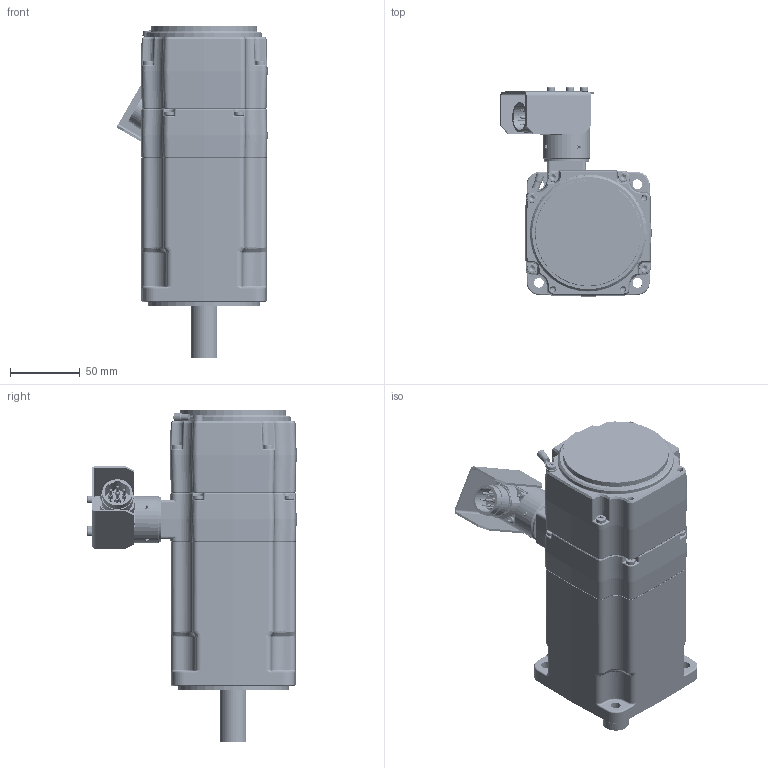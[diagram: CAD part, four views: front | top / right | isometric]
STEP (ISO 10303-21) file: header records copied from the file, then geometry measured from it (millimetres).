
FILE_DESCRIPTION((''),'2;1');
FILE_NAME('EY420EYR7010_ASM','2017-09-29T',('pf73167'),(''),'PRO/ENGINEER BY PARAMETRIC TECHNOLOGY CORPORATION, 2009400','PRO/ENGINEER BY PARAMETRIC TECHNOLOGY CORPORATION, 2009400','');
FILE_SCHEMA(('CONFIG_CONTROL_DESIGN'));
Length unit declared in the file: millimetre
Products named in the file (41): 344176P0027; 5116P1308; 1613P0123; 344174P0001; 344171P0001; 344212P0002; 344171P0001_ASM; 220087P0012; 344175R0001_ASM; 5116P1315; 1711P0005; 1645P0017; 344170P0001; 344225R2000; 344561P0001; 344570P0002_ENROULE; 344228R2000_ASM; 344172P0009; 344173R2008_ASM; 5340P0069; 5320P0033; 1143P0415; 344180P0019; 1642P0104; 6620P0012; 1143P0408; 345359P0002; 5340P0124; 5340P0125; 1150P0204; 345359P0001; 1170P0042; 220132P1010_0001; 220132P1010_0002; 220132P0111; 220132P0120; 220132P1010_ASM; 345359P0003; 1150P0305; 345359R1010_ASM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
Assembly tree (93 placements, depth 4):
  EY420EYR7010_ASM
    344176P0027
    5116P1308
    1613P0123
    344175R0001_ASM
      344174P0001
      344171P0001_ASM
        344171P0001
        344212P0002  x2
      220087P0012  x20
    5116P1315
    1711P0005
    1645P0017  x2
    344173R2008_ASM
      344228R2000_ASM
        344170P0001
        344225R2000  x6
        344561P0001  x2
        344570P0002_ENROULE  x2
      344172P0009
    5340P0069  x2
    5320P0033
    1143P0415  x8
    344180P0019
    1642P0104
    6620P0012
    1143P0408
    345359R1010_ASM
      345359P0002
      5340P0124
      5340P0125
      1150P0204  x8
      345359P0001
      1170P0042  x4
      220132P1010_ASM
        220132P1010_0001
        220132P1010_0002
        220132P0111  x4
        220132P0120  x3
      345359P0003
      1150P0305  x3
Bounding box: 108.48 x 150.2 x 238.2 mm (x, y, z)
Volume: 932288.8 mm3; surface area: 409577.9 mm2
Topology: 91 solids, 110 shells, 5719 faces, 13855 edges, 8448 vertices
Faces by surface type: cylinder 2006, plane 1814, bspline 851, cone 601, torus 399, sphere 28, extrusion 20
Entity records: 137858 total; most frequent: CARTESIAN_POINT 48310, ORIENTED_EDGE 18710, DIRECTION 18403, EDGE_CURVE 9355, AXIS2_PLACEMENT_3D 6926, VERTEX_POINT 5832, VECTOR 4551, LINE 4531
